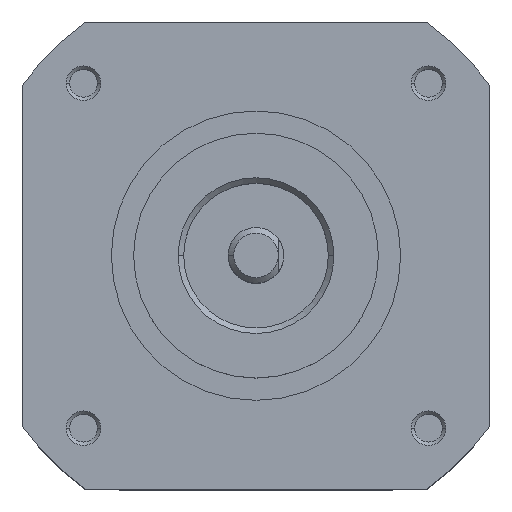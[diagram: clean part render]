
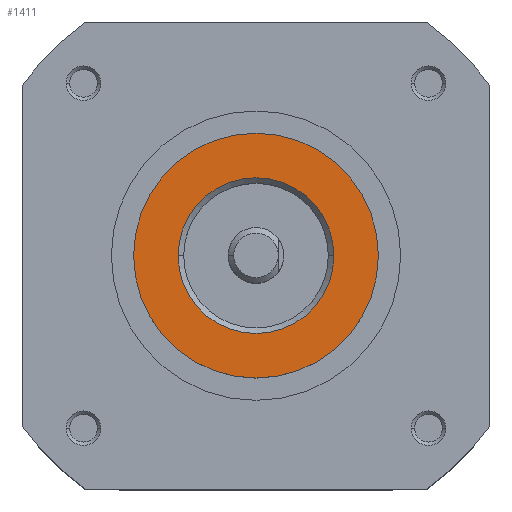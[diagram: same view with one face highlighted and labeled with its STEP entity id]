
A CAD part, top view. The second image highlights one B-rep face of the part: STEP entity #1411.
In plain terms, the highlighted planar face has unit normal (0, 0, 1).
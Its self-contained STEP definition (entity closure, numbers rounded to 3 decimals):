
#325 = EDGE_CURVE ( 'NONE', #4350, #4352, #2652, .T. ) ;
#350 = EDGE_CURVE ( 'NONE', #4363, #4370, #2668, .T. ) ;
#411 = CIRCLE ( 'NONE', #3190, 11. ) ;
#770 = EDGE_CURVE ( 'NONE', #4370, #4363, #2696, .T. ) ;
#793 = EDGE_CURVE ( 'NONE', #4352, #4350, #411, .T. ) ;
#905 = DIRECTION ( 'NONE',  ( 1., 0., 0. ) ) ;
#906 = DIRECTION ( 'NONE',  ( 0., 0., 1. ) ) ;
#908 = PLANE ( 'NONE',  #3980 ) ;
#922 = CARTESIAN_POINT ( 'NONE',  ( 0., 0., 8. ) ) ;
#1185 = EDGE_LOOP ( 'NONE', ( #6001, #6002 ) ) ;
#1280 = EDGE_LOOP ( 'NONE', ( #5999, #6000 ) ) ;
#1411 = ADVANCED_FACE ( 'NONE', ( #4907, #4898 ), #908, .T. ) ;
#2077 = CARTESIAN_POINT ( 'NONE',  ( -11., 0., 8. ) ) ;
#2079 = CARTESIAN_POINT ( 'NONE',  ( 11., 0., 8. ) ) ;
#2090 = CARTESIAN_POINT ( 'NONE',  ( -7., 0., 8. ) ) ;
#2097 = CARTESIAN_POINT ( 'NONE',  ( 7., 0., 8. ) ) ;
#2652 = CIRCLE ( 'NONE', #3157, 11. ) ;
#2668 = CIRCLE ( 'NONE', #3167, 7. ) ;
#2696 = CIRCLE ( 'NONE', #3178, 7. ) ;
#2963 = DIRECTION ( 'NONE',  ( 1., 0., 0. ) ) ;
#2964 = DIRECTION ( 'NONE',  ( 0., 0., 1. ) ) ;
#2974 = CARTESIAN_POINT ( 'NONE',  ( 0., 0., 8. ) ) ;
#3021 = DIRECTION ( 'NONE',  ( 1., 0., 0. ) ) ;
#3022 = DIRECTION ( 'NONE',  ( 0., 0., -1. ) ) ;
#3025 = CARTESIAN_POINT ( 'NONE',  ( 0., 0., 8. ) ) ;
#3069 = DIRECTION ( 'NONE',  ( 1., 0., 0. ) ) ;
#3070 = DIRECTION ( 'NONE',  ( 0., 0., -1. ) ) ;
#3071 = CARTESIAN_POINT ( 'NONE',  ( 0., 0., 8. ) ) ;
#3095 = DIRECTION ( 'NONE',  ( 1., 0., 0. ) ) ;
#3096 = DIRECTION ( 'NONE',  ( 0., 0., 1. ) ) ;
#3097 = CARTESIAN_POINT ( 'NONE',  ( 0., 0., 8. ) ) ;
#3157 = AXIS2_PLACEMENT_3D ( 'NONE', #3097, #3096, #3095 ) ;
#3167 = AXIS2_PLACEMENT_3D ( 'NONE', #3071, #3070, #3069 ) ;
#3178 = AXIS2_PLACEMENT_3D ( 'NONE', #3025, #3022, #3021 ) ;
#3190 = AXIS2_PLACEMENT_3D ( 'NONE', #2974, #2964, #2963 ) ;
#3980 = AXIS2_PLACEMENT_3D ( 'NONE', #922, #906, #905 ) ;
#4350 = VERTEX_POINT ( 'NONE', #2077 ) ;
#4352 = VERTEX_POINT ( 'NONE', #2079 ) ;
#4363 = VERTEX_POINT ( 'NONE', #2090 ) ;
#4370 = VERTEX_POINT ( 'NONE', #2097 ) ;
#4898 = FACE_OUTER_BOUND ( 'NONE', #1185, .T. ) ;
#4907 = FACE_BOUND ( 'NONE', #1280, .T. ) ;
#5999 = ORIENTED_EDGE ( 'NONE', *, *, #770, .T. ) ;
#6000 = ORIENTED_EDGE ( 'NONE', *, *, #350, .T. ) ;
#6001 = ORIENTED_EDGE ( 'NONE', *, *, #325, .T. ) ;
#6002 = ORIENTED_EDGE ( 'NONE', *, *, #793, .T. ) ;
